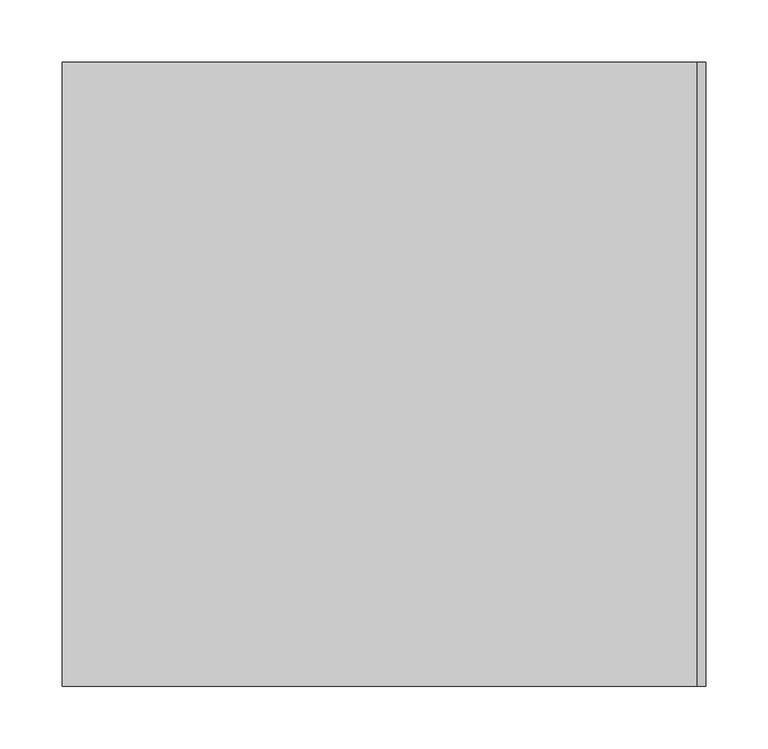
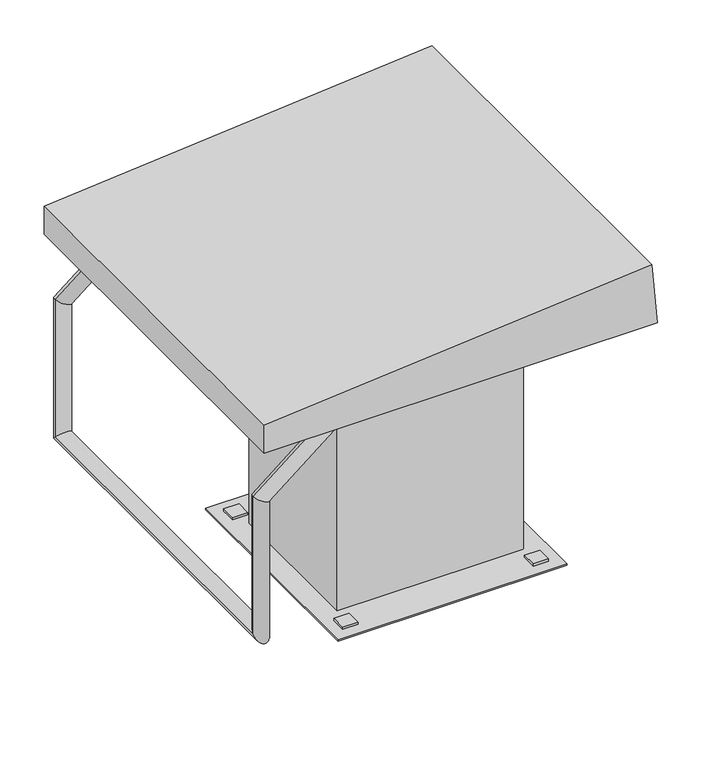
"""IFC4 building model written with IfcOpenShell, lengths in millimetres: proxy geometry, PDAH4_Base recta : PDAH4_Podium Altura 40cm."""

from ifc_helpers import new_model, si_unit, frame, origin, origin_with_axes, place, context, project, spatial, polyline, circle_curve, ellipse_curve, outline, extrude, source, transform, mapped, element, save
from ifc_brep_helpers import plane_surface, cylinder_surface, advanced_brep


def generic_models_98c46cd7(model_context):
    return source(origin(), model_context, "Body", "SolidModel", [
        extrude(outline(polyline([(-135.86098, 135.0), (-115.86098, 135.0), (-115.86098, 115.0), (-135.86098, 115.0), (-135.86098, 135.0)])), frame((0.0, 0.0, 2.0), z_axis=(0.0, 0.0, 1.0), x_axis=(1.0, 0.0, 0.0)), (0.0, 0.0, 1.0), 3.0),
        extrude(outline(polyline([(-385.9187065, 135.0), (-365.9187065, 135.0), (-365.9187065, 115.0), (-385.9187065, 115.0), (-385.9187065, 135.0)])), frame((0.0, 0.0, 2.0), z_axis=(0.0, 0.0, 1.0), x_axis=(1.0, 0.0, 0.0)), (0.0, 0.0, 1.0), 3.0),
        extrude(outline(polyline([(-115.9187065, -135.0), (-135.86098, -135.0), (-135.86098, -115.0), (-115.9187065, -115.0), (-115.9187065, -135.0)])), frame((0.0, 0.0, 2.0), z_axis=(0.0, 0.0, 1.0), x_axis=(1.0, 0.0, 0.0)), (0.0, 0.0, 1.0), 3.0),
        extrude(outline(polyline([(-365.9187065, -135.0), (-385.9187065, -135.0), (-385.9187065, -115.0), (-365.9187065, -115.0), (-365.9187065, -135.0)])), frame((0.0, 0.0, 2.0), z_axis=(0.0, 0.0, 1.0), x_axis=(1.0, 0.0, 0.0)), (0.0, 0.0, 1.0), 3.0),
        advanced_brep(
        [(-427.7237193, -225.0, 402.6191728), (-415.1538093, -225.0, 387.0629084), (-555.0, -225.0, 299.7762687), (-535.0, -225.0, 290.2237313), (-555.0, -225.0, 109.0), (-535.0, -225.0, 109.0), (-555.0, 225.0, 109.0), (-535.0, 225.0, 109.0), (-555.0, 225.0, 299.7866555), (-535.0, 225.0, 290.2133445), (-432.3741908, 225.0, 398.5296053), (-419.8306011, 225.0, 382.9521101)],
        [
            (0, 1, circle_curve(frame((-421.4387643, -225.0, 394.8410406), z_axis=(0.7778132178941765, 0.0, 0.6284955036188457), x_axis=(0.6284955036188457, 0.0, -0.7778132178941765)), 10.0)),
            (1, 0, circle_curve(frame((-421.4387643, -225.0, 394.8410406), z_axis=(0.7778132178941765, 0.0, 0.6284955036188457), x_axis=(0.6284955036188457, 0.0, -0.7778132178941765)), 10.0)),
            (0, 2),
            (2, 3, ellipse_curve(frame((-545.0, -225.0, 295.0), z_axis=(0.4309898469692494, 0.0, 0.9023567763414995), x_axis=(0.9023567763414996, 0.0, -0.430989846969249)), 11.0820911, 10.0)),
            (3, 1),
            (3, 2, ellipse_curve(frame((-545.0, -225.0, 295.0), z_axis=(0.4309898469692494, 0.0, 0.9023567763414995), x_axis=(0.9023567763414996, 0.0, -0.430989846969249)), 11.0820911, 10.0)),
            (2, 4),
            (4, 5, ellipse_curve(frame((-545.0, -225.0, 109.0), z_axis=(0.0, -0.7071067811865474, 0.7071067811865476), x_axis=(0.0, 0.7071067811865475, 0.7071067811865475)), 14.1421356, 10.0)),
            (5, 3),
            (5, 4, ellipse_curve(frame((-545.0, -225.0, 109.0), z_axis=(0.0, -0.7071067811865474, 0.7071067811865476), x_axis=(0.0, 0.7071067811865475, 0.7071067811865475)), 14.1421356, 10.0)),
            (4, 6),
            (6, 7, ellipse_curve(frame((-545.0, 225.0, 109.0), z_axis=(0.0, -0.7071067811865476, -0.7071067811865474), x_axis=(0.0, -0.7071067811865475, 0.7071067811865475)), 14.1421356, 10.0)),
            (7, 5),
            (7, 6, ellipse_curve(frame((-545.0, 225.0, 109.0), z_axis=(0.0, -0.7071067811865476, -0.7071067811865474), x_axis=(0.0, -0.7071067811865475, 0.7071067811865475)), 14.1421356, 10.0)),
            (6, 8),
            (8, 9, ellipse_curve(frame((-545.0, 225.0, 295.0), z_axis=(-0.431752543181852, 0.0, -0.9019920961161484), x_axis=(0.9019920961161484, 0.0, -0.43175254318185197)), 11.0865716, 10.0)),
            (9, 7),
            (9, 8, ellipse_curve(frame((-545.0, 225.0, 295.0), z_axis=(-0.431752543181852, 0.0, -0.9019920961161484), x_axis=(0.9019920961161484, 0.0, -0.43175254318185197)), 11.0865716, 10.0)),
            (10, 11, circle_curve(frame((-426.1023959, 225.0, 390.7408577), z_axis=(0.7788747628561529, 0.0, 0.6271794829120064), x_axis=(0.6271794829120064, 0.0, -0.7788747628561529)), 10.0)),
            (11, 10, circle_curve(frame((-426.1023959, 225.0, 390.7408577), z_axis=(0.7788747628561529, 0.0, 0.6271794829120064), x_axis=(0.6271794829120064, 0.0, -0.7788747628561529)), 10.0)),
            (8, 10),
            (11, 9),
        ],
        [
            plane_surface(frame((-421.4387643, -215.0, 394.8410406), z_axis=(0.7778132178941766, 0.0, 0.6284955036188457), x_axis=(0.6284955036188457, 0.0, -0.7778132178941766))),
            cylinder_surface(frame((-421.4387643, -225.0, 394.8410406), z_axis=(0.7778132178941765, 0.0, 0.6284955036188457), x_axis=(0.6284955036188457, 0.0, -0.7778132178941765)), 10.0),
            cylinder_surface(frame((-545.0, -225.0, 295.0), z_axis=(0.0, 0.0, 1.0), x_axis=(1.0, 0.0, 0.0)), 10.0),
            cylinder_surface(frame((-545.0, -225.0, 109.0), z_axis=(0.0, -1.0, 0.0), x_axis=(1.0, 0.0, 0.0)), 10.0),
            cylinder_surface(frame((-545.0, 225.0, 109.0), z_axis=(0.0, 0.0, -1.0), x_axis=(1.0, 0.0, 0.0)), 10.0),
            plane_surface(frame((-426.1023959, 215.0, 390.7408577), z_axis=(0.7788747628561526, 0.0, 0.6271794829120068), x_axis=(0.6271794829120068, 0.0, -0.7788747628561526))),
            cylinder_surface(frame((-545.0, 225.0, 295.0), z_axis=(-0.7788747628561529, 0.0, -0.6271794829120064), x_axis=(0.6271794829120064, 0.0, -0.7788747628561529)), 10.0),
        ],
        [
            (0, [[1, 2]]),
            (1, [[-1, 3, 4, 5]]),
            (1, [[-2, -5, 6, -3]]),
            (2, [[-4, 7, 8, 9]]),
            (2, [[-6, -9, 10, -7]]),
            (3, [[-8, 11, 12, 13]]),
            (3, [[-10, -13, 14, -11]]),
            (4, [[-12, 15, 16, 17]]),
            (4, [[-14, -17, 18, -15]]),
            (5, [[19, 20]]),
            (6, [[-16, 21, -20, 22]]),
            (6, [[-18, -22, -19, -21]]),
        ],
    ),
        extrude(outline(polyline([(375.0, -555.0), (375.0, -39.5905347), (457.8321972, -46.8374129), (413.3737316, -555.0), (375.0, -555.0)])), frame((0.0, -250.0, 0.0), z_axis=(0.0, 1.0, 0.0), x_axis=(0.0, 0.0, 1.0)), (0.0, 0.0, 1.0), 500.0),
        extrude(outline(polyline([(-128.8412476, -100.0), (-372.9961653, -100.0), (-372.9961653, 100.0), (-128.8412476, 100.0), (-128.8412476, -100.0)])), frame((0.0, 0.0, 2.0), z_axis=(0.0, 0.0, 1.0), x_axis=(1.0, 0.0, 0.0)), (0.0, 0.0, 1.0), 373.0),
        extrude(outline(polyline([(-100.9187065, 150.0), (-100.9187065, -150.0), (-400.9187065, -150.0), (-400.9187065, 150.0), (-100.9187065, 150.0)])), origin_with_axes(), (0.0, 0.0, 1.0), 2.0),
    ])


if __name__ == "__main__":
    model = new_model("IFC4")
    model_context = context("Model", 3, world=origin())
    ifc_project = project(units=[si_unit("LENGTHUNIT", "METRE", prefix="MILLI")], contexts=[model_context])
    site = spatial("IfcSite", under=ifc_project)
    building = spatial("IfcBuilding", under=site)
    placement = place(None, origin())
    generic_models_shape = generic_models_98c46cd7(model_context)
    element("IfcBuildingElementProxy", 1, Name="PDAH4_Base recta : PDAH4_Podium Altura 40cm", ObjectType="PDAH4_Base recta : PDAH4_Podium Altura 40cm", at=placement, inside=building, context=model_context, shape_type="MappedRepresentation", body=[
        mapped(generic_models_shape, transform((0.0, 0.0, 0.0), x_axis=(1.0, 0.0, 0.0), y_axis=(0.0, 1.0, 0.0), z_axis=(0.0, 0.0, 1.0))),
    ])
    save(model, "model.ifc")
